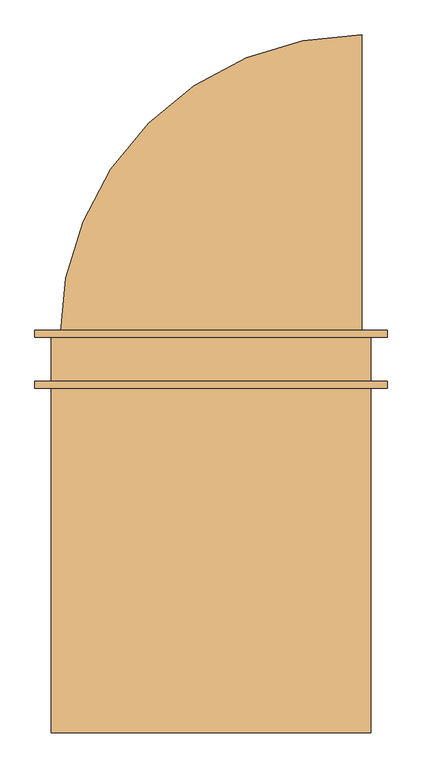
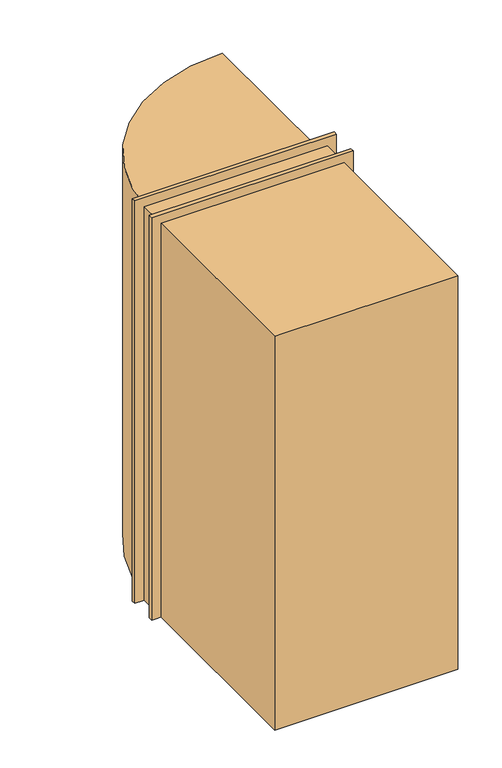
"""IFC4 building model written with IfcOpenShell, lengths in millimetres: door geometry, Дверь_Деревянная_Внутренняя_Однопольная_ГОСТ_475-2016 : 0910 х 2070(h)_Л_с Порогом."""

from ifc_helpers import new_model, si_unit, point, frame, frame_2d, origin, origin_with_axes, place, context, project, spatial, polyline, circle_curve, trimmed, segment, composite_curve, outline, extrude, faceted_brep, source, transform, mapped, element, save
from ifc_brep_helpers import plane_surface, cylinder_surface, revolved_surface, advanced_brep


def door_3526fbcb(model_context):
    return source(origin(), model_context, "Body", "SolidModel", [
        extrude(outline(composite_curve([segment(polyline([(430.0, 919.325), (430.0, 59.325), (-430.0, 59.325)]), True, "CONTINUOUS"), segment(trimmed(circle_curve(frame_2d((430.0, 59.325)), 860.0), [point((-430.0, 59.325))], [point((430.0, 919.325))], False, "CARTESIAN"), True, "CONTINUOUS")], self_intersect=False)), origin_with_axes(), (0.0, 0.0, 1.0), 2045.0),
        extrude(outline(polyline([(-455.0, -1065.675), (-455.0, -65.675), (455.0, -65.675), (455.0, -1065.675), (-455.0, -1065.675)])), origin_with_axes(), (0.0, 0.0, 1.0), 2070.0),
        advanced_brep(
        [(-365.0, 18.325, 914.4), (-355.0, 18.325, 914.4), (-375.0, 18.325, 914.4), (-344.5241324, -30.675, 914.4), (-365.0, -30.675, 914.4), (-385.4758676, -30.675, 914.4), (-340.0, -28.8471319, 914.4), (-390.0, -28.8471319, 914.4), (-340.0, -25.3834537, 914.4), (-390.0, -25.3834537, 914.4), (-346.363764, -0.675, 914.4), (-383.636236, -0.675, 914.4), (-355.0, -0.675, 914.4), (-375.0, -0.675, 914.4)],
        [
            (0, 1),
            (1, 2, circle_curve(frame((-365.0, 18.325, 914.4), z_axis=(0.0, 1.0, 0.0), x_axis=(-1.0, 0.0, 0.0)), 10.0)),
            (2, 0),
            (2, 1, circle_curve(frame((-365.0, 18.325, 914.4), z_axis=(0.0, 1.0, 0.0), x_axis=(-1.0, 0.0, 0.0)), 10.0)),
            (3, 4),
            (4, 5),
            (5, 3, circle_curve(frame((-365.0, -30.675, 914.4), z_axis=(0.0, -1.0, 0.0), x_axis=(-1.0, 0.0, 0.0)), 20.4758676)),
            (3, 5, circle_curve(frame((-365.0, -30.675, 914.4), z_axis=(0.0, -1.0, 0.0), x_axis=(-1.0, 0.0, 0.0)), 20.4758676)),
            (6, 3),
            (5, 7),
            (7, 6, circle_curve(frame((-365.0, -28.8471319, 914.4), z_axis=(0.0, -1.0, 0.0), x_axis=(-1.0, 0.0, 0.0)), 25.0)),
            (6, 7, circle_curve(frame((-365.0, -28.8471319, 914.4), z_axis=(0.0, -1.0, 0.0), x_axis=(-1.0, 0.0, 0.0)), 25.0)),
            (8, 6),
            (7, 9),
            (9, 8, circle_curve(frame((-365.0, -25.3834537, 914.4), z_axis=(0.0, -1.0, 0.0), x_axis=(-1.0, 0.0, 0.0)), 25.0)),
            (8, 9, circle_curve(frame((-365.0, -25.3834537, 914.4), z_axis=(0.0, -1.0, 0.0), x_axis=(-1.0, 0.0, 0.0)), 25.0)),
            (10, 8),
            (9, 11),
            (11, 10, circle_curve(frame((-365.0, -0.675, 914.4), z_axis=(0.0, -1.0, 0.0), x_axis=(-1.0, 0.0, 0.0)), 18.636236)),
            (10, 11, circle_curve(frame((-365.0, -0.675, 914.4), z_axis=(0.0, -1.0, 0.0), x_axis=(-1.0, 0.0, 0.0)), 18.636236)),
            (12, 10),
            (11, 13),
            (13, 12, circle_curve(frame((-365.0, -0.675, 914.4), z_axis=(0.0, -1.0, 0.0), x_axis=(-1.0, 0.0, 0.0)), 10.0)),
            (12, 13, circle_curve(frame((-365.0, -0.675, 914.4), z_axis=(0.0, -1.0, 0.0), x_axis=(-1.0, 0.0, 0.0)), 10.0)),
            (1, 12),
            (13, 2),
        ],
        [
            plane_surface(frame((-365.0, 18.325, 914.4), z_axis=(0.0, 1.0, 0.0), x_axis=(-1.0, 0.0, 0.0))),
            plane_surface(frame((-365.0, -30.675, 914.4), z_axis=(0.0, -1.0, 0.0), x_axis=(-1.0, 0.0, 0.0))),
            revolved_surface(polyline([(-385.4758676, -30.675, 914.4), (-390.0, -28.8471319, 914.4)]), (-365.0, 18.325, 914.4), (0.0, 1.0, 0.0)),
            cylinder_surface(frame((-365.0, 18.325, 914.4), z_axis=(0.0, 1.0, 0.0), x_axis=(-1.0, 0.0, 0.0)), 25.0),
            revolved_surface(polyline([(-390.0, -25.3834537, 914.4), (-383.636236, -0.675, 914.4)]), (-365.0, 18.325, 914.4), (0.0, 1.0, 0.0)),
            plane_surface(frame((-365.0, -0.675, 914.4), z_axis=(0.0, 1.0, 0.0), x_axis=(-1.0, 0.0, 0.0))),
            cylinder_surface(frame((-365.0, 18.325, 914.4), z_axis=(0.0, 1.0, 0.0), x_axis=(-1.0, 0.0, 0.0)), 10.0),
        ],
        [
            (0, [[1, 2, 3]]),
            (0, [[-3, 4, -1]]),
            (1, [[5, 6, 7]]),
            (1, [[-6, -5, 8]]),
            (2, [[9, -7, 10, 11]]),
            (2, [[-10, -8, -9, 12]]),
            (3, [[13, -11, 14, 15]]),
            (3, [[-14, -12, -13, 16]]),
            (4, [[17, -15, 18, 19]]),
            (4, [[-18, -16, -17, 20]]),
            (5, [[21, -19, 22, 23]]),
            (5, [[-22, -20, -21, 24]]),
            (6, [[25, -23, 26, -2]]),
            (6, [[-26, -24, -25, -4]]),
        ],
    ),
        extrude(outline(composite_curve([segment(trimmed(circle_curve(frame_2d((914.4, -365.0)), 30.0), [point((914.4, -395.0))], [point((914.4, -335.0))], False, "CARTESIAN"), True, "CONTINUOUS"), segment(trimmed(circle_curve(frame_2d((914.4, -365.0)), 30.0), [point((914.4, -335.0))], [point((914.4, -395.0))], False, "CARTESIAN"), True, "CONTINUOUS")], self_intersect=False)), frame((0.0, 18.325, 0.0), z_axis=(0.0, 1.0, 0.0), x_axis=(0.0, 0.0, 1.0)), (0.0, 0.0, 1.0), 6.0),
        advanced_brep(
        [(-365.0, 65.325, 914.4), (-375.0, 65.325, 914.4), (-355.0, 65.325, 914.4), (-344.5241324, 114.325, 914.4), (-385.4758676, 114.325, 914.4), (-365.0, 114.325, 914.4), (-340.0, 112.4971319, 914.4), (-390.0, 112.4971319, 914.4), (-340.0, 109.0334537, 914.4), (-390.0, 109.0334537, 914.4), (-346.363764, 84.325, 914.4), (-383.636236, 84.325, 914.4), (-355.0, 84.325, 914.4), (-375.0, 84.325, 914.4)],
        [
            (0, 1),
            (1, 2, circle_curve(frame((-365.0, 65.325, 914.4), z_axis=(0.0, -1.0, 0.0), x_axis=(-1.0, 0.0, 0.0)), 10.0)),
            (2, 0),
            (2, 1, circle_curve(frame((-365.0, 65.325, 914.4), z_axis=(0.0, -1.0, 0.0), x_axis=(-1.0, 0.0, 0.0)), 10.0)),
            (3, 4, circle_curve(frame((-365.0, 114.325, 914.4), z_axis=(0.0, 1.0, 0.0), x_axis=(-1.0, 0.0, 0.0)), 20.4758676)),
            (4, 5),
            (5, 3),
            (4, 3, circle_curve(frame((-365.0, 114.325, 914.4), z_axis=(0.0, 1.0, 0.0), x_axis=(-1.0, 0.0, 0.0)), 20.4758676)),
            (6, 7, circle_curve(frame((-365.0, 112.4971319, 914.4), z_axis=(0.0, 1.0, 0.0), x_axis=(-1.0, 0.0, 0.0)), 25.0)),
            (7, 4),
            (3, 6),
            (7, 6, circle_curve(frame((-365.0, 112.4971319, 914.4), z_axis=(0.0, 1.0, 0.0), x_axis=(-1.0, 0.0, 0.0)), 25.0)),
            (8, 9, circle_curve(frame((-365.0, 109.0334537, 914.4), z_axis=(0.0, 1.0, 0.0), x_axis=(-1.0, 0.0, 0.0)), 25.0)),
            (9, 7),
            (6, 8),
            (9, 8, circle_curve(frame((-365.0, 109.0334537, 914.4), z_axis=(0.0, 1.0, 0.0), x_axis=(-1.0, 0.0, 0.0)), 25.0)),
            (10, 11, circle_curve(frame((-365.0, 84.325, 914.4), z_axis=(0.0, 1.0, 0.0), x_axis=(-1.0, 0.0, 0.0)), 18.636236)),
            (11, 9),
            (8, 10),
            (11, 10, circle_curve(frame((-365.0, 84.325, 914.4), z_axis=(0.0, 1.0, 0.0), x_axis=(-1.0, 0.0, 0.0)), 18.636236)),
            (12, 13, circle_curve(frame((-365.0, 84.325, 914.4), z_axis=(0.0, 1.0, 0.0), x_axis=(-1.0, 0.0, 0.0)), 10.0)),
            (13, 11),
            (10, 12),
            (13, 12, circle_curve(frame((-365.0, 84.325, 914.4), z_axis=(0.0, 1.0, 0.0), x_axis=(-1.0, 0.0, 0.0)), 10.0)),
            (1, 13),
            (12, 2),
        ],
        [
            plane_surface(frame((-365.0, 65.325, 914.4), z_axis=(0.0, -1.0, 0.0), x_axis=(-1.0, 0.0, 0.0))),
            plane_surface(frame((-365.0, 114.325, 914.4), z_axis=(0.0, 1.0, 0.0), x_axis=(-1.0, 0.0, 0.0))),
            revolved_surface(polyline([(-385.4758676, 114.325, 914.4), (-390.0, 112.4971319, 914.4)]), (-365.0, 65.325, 914.4), (0.0, -1.0, 0.0)),
            cylinder_surface(frame((-365.0, 65.325, 914.4), z_axis=(0.0, -1.0, 0.0), x_axis=(-1.0, 0.0, 0.0)), 25.0),
            revolved_surface(polyline([(-390.0, 109.0334537, 914.4), (-383.636236, 84.325, 914.4)]), (-365.0, 65.325, 914.4), (0.0, -1.0, 0.0)),
            plane_surface(frame((-365.0, 84.325, 914.4), z_axis=(0.0, -1.0, 0.0), x_axis=(-1.0, 0.0, 0.0))),
            cylinder_surface(frame((-365.0, 65.325, 914.4), z_axis=(0.0, -1.0, 0.0), x_axis=(-1.0, 0.0, 0.0)), 10.0),
        ],
        [
            (0, [[1, 2, 3]]),
            (0, [[-3, 4, -1]]),
            (1, [[5, 6, 7]]),
            (1, [[8, -7, -6]]),
            (2, [[9, 10, -5, 11]]),
            (2, [[12, -11, -8, -10]]),
            (3, [[13, 14, -9, 15]]),
            (3, [[16, -15, -12, -14]]),
            (4, [[17, 18, -13, 19]]),
            (4, [[20, -19, -16, -18]]),
            (5, [[21, 22, -17, 23]]),
            (5, [[24, -23, -20, -22]]),
            (6, [[-2, 25, -21, 26]]),
            (6, [[-4, -26, -24, -25]]),
        ],
    ),
        extrude(outline(composite_curve([segment(trimmed(circle_curve(frame_2d((914.4, -365.0)), 30.0), [point((914.4, -395.0))], [point((914.4, -335.0))], False, "CARTESIAN"), True, "CONTINUOUS"), segment(trimmed(circle_curve(frame_2d((914.4, -365.0)), 30.0), [point((914.4, -335.0))], [point((914.4, -395.0))], False, "CARTESIAN"), True, "CONTINUOUS")], self_intersect=False)), frame((0.0, 59.325, 0.0), z_axis=(0.0, 1.0, 0.0), x_axis=(0.0, 0.0, 1.0)), (0.0, 0.0, 1.0), 6.0),
        extrude(outline(polyline([(310.0, 35.9916667), (-310.0, 35.9916667), (-310.0, 47.6583333), (310.0, 47.6583333), (310.0, 35.9916667)])), frame((0.0, 0.0, 230.0), z_axis=(0.0, 0.0, 1.0), x_axis=(1.0, 0.0, 0.0)), (0.0, 0.0, 1.0), 1695.0),
        extrude(outline(polyline([(2045.0, -430.0), (25.0, -430.0), (25.0, 430.0), (2045.0, 430.0), (2045.0, -430.0)]), holes=[polyline([(1925.0, -310.0), (1925.0, 310.0), (230.0, 310.0), (230.0, -310.0), (1925.0, -310.0)])]), frame((0.0, 24.325, 0.0), z_axis=(0.0, 1.0, 0.0), x_axis=(0.0, 0.0, 1.0)), (0.0, 0.0, 1.0), 35.0),
        faceted_brep([(455.0, 59.325, 0.0), (455.0, -65.675, 0.0), (430.0, -65.675, 0.0), (430.0, -10.6, 0.0), (417.3, -10.6, 0.0), (417.3, 24.325, 0.0), (430.0, 24.325, 0.0), (430.0, 59.325, 0.0), (455.0, 59.325, 2070.0), (455.0, -65.675, 2070.0), (-455.0, -65.675, 2070.0), (-455.0, -65.675, 0.0), (-430.0, -65.675, 0.0), (-430.0, -65.675, 2045.0), (430.0, -65.675, 2045.0), (430.0, -10.6, 2045.0), (-430.0, -10.6, 2045.0), (-430.0, -10.6, 0.0), (-417.3, -10.6, 0.0), (-417.3, -10.6, 2032.3), (417.3, -10.6, 2032.3), (417.3, 24.325, 2032.3), (-417.3, 24.325, 2032.3), (-417.3, 24.325, 0.0), (-430.0, 24.325, 0.0), (-430.0, 24.325, 2045.0), (430.0, 24.325, 2045.0), (430.0, 59.325, 2045.0), (-430.0, 59.325, 2045.0), (-430.0, 59.325, 0.0), (-455.0, 59.325, 0.0), (-455.0, 59.325, 2070.0)], [[[0, 1, 2, 3, 4, 5, 6, 7]], [[1, 0, 8, 9]], [[2, 1, 9, 10, 11, 12, 13, 14]], [[3, 2, 14, 15]], [[4, 3, 15, 16, 17, 18, 19, 20]], [[5, 4, 20, 21]], [[6, 5, 21, 22, 23, 24, 25, 26]], [[7, 6, 26, 27]], [[0, 7, 27, 28, 29, 30, 31, 8]], [[9, 8, 31, 10]], [[15, 14, 13, 16]], [[21, 20, 19, 22]], [[27, 26, 25, 28]], [[30, 29, 24, 23, 18, 17, 12, 11]], [[10, 31, 30, 11]], [[16, 13, 12, 17]], [[22, 19, 18, 23]], [[28, 25, 24, 29]]]),
        extrude(outline(polyline([(0.0, 436.35), (0.0, 501.35), (2116.35, 501.35), (2116.35, -501.35), (0.0, -501.35), (0.0, -436.35), (2051.35, -436.35), (2051.35, 436.35), (0.0, 436.35)])), frame((0.0, -85.675, 0.0), z_axis=(0.0, 1.0, 0.0), x_axis=(0.0, 0.0, 1.0)), (0.0, 0.0, 1.0), 20.0),
        extrude(outline(polyline([(0.0, 436.35), (0.0, 501.35), (2116.35, 501.35), (2116.35, -501.35), (0.0, -501.35), (0.0, -436.35), (2051.35, -436.35), (2051.35, 436.35), (0.0, 436.35)])), frame((0.0, 59.325, 0.0), z_axis=(0.0, 1.0, 0.0), x_axis=(0.0, 0.0, 1.0)), (0.0, 0.0, 1.0), 20.0),
        extrude(outline(polyline([(430.0, 59.325), (430.0, 24.325), (-430.0, 24.325), (-430.0, 59.325), (430.0, 59.325)])), origin_with_axes(), (0.0, 0.0, 1.0), 25.0),
    ])


if __name__ == "__main__":
    model = new_model("IFC4")
    model_context = context("Model", 3, world=origin())
    ifc_project = project(units=[si_unit("LENGTHUNIT", "METRE", prefix="MILLI")], contexts=[model_context])
    site = spatial("IfcSite", under=ifc_project)
    building = spatial("IfcBuilding", under=site)
    placement = place(None, origin())
    door_shape = door_3526fbcb(model_context)
    element("IfcDoor", 1, ObjectType="Дверь_Деревянная_Внутренняя_Однопольная_ГОСТ_475-2016 : 0910 х 2070(h)_Л_с Порогом", at=placement, inside=building, context=model_context, shape_type="MappedRepresentation", body=[
        mapped(door_shape, transform((0.0, 0.0, 0.0), x_axis=(1.0, 0.0, 0.0), y_axis=(0.0, 1.0, 0.0), z_axis=(0.0, 0.0, 1.0))),
    ])
    save(model, "model.ifc")
